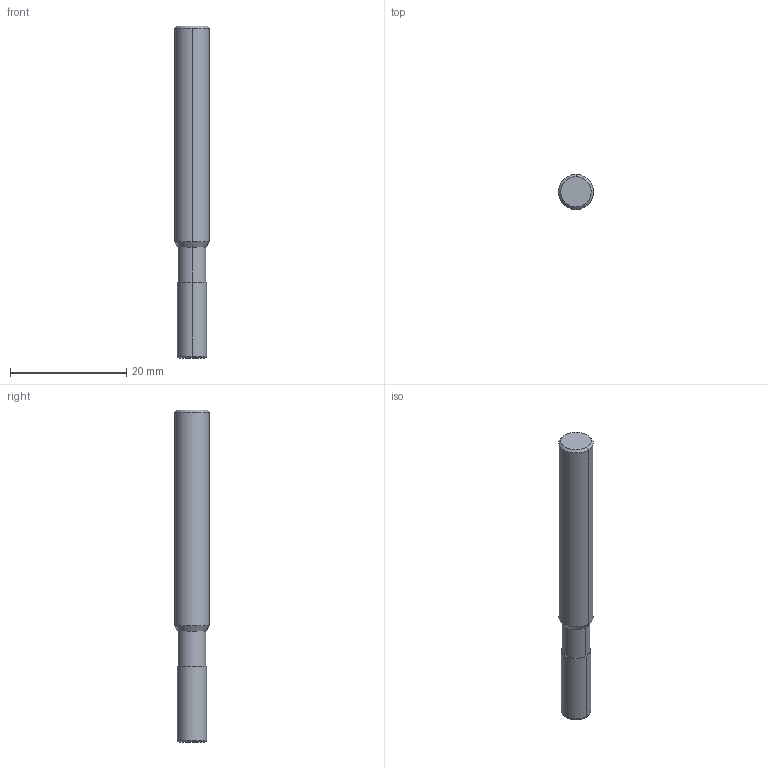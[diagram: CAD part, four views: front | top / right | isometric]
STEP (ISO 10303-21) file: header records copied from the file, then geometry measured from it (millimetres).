
FILE_DESCRIPTION((''),'2;1');
FILE_NAME('DIN4003_82_HEURO','2019-04-10T16:20:49',('automd'),(''),'CREO PARAMETRIC BY PTC INC, 2018400','CREO PARAMETRIC BY PTC INC, 2018400','');
FILE_SCHEMA(('AUTOMOTIVE_DESIGN { 1 0 10303 214 1 1 1 1 }'));
Length unit declared in the file: millimetre
Products named in the file (1): DIN4003_82_HEURO
Bounding box: 6 x 6 x 57 mm (x, y, z)
Volume: 1431.2 mm3; surface area: 1054.7 mm2
Topology: 1 solids, 1 shells, 15 faces, 31 edges, 20 vertices
Faces by surface type: bspline 15
Entity records: 946 total; most frequent: CARTESIAN_POINT 386, DIRECTION 80, ORIENTED_EDGE 56, AXIS2_PLACEMENT_3D 31, EDGE_CURVE 28, PRESENTATION_STYLE_ASSIGNMENT 27, STYLED_ITEM 27, CIRCLE 19
